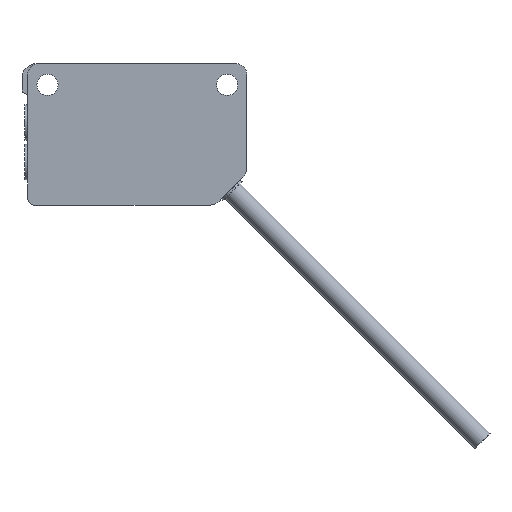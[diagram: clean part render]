
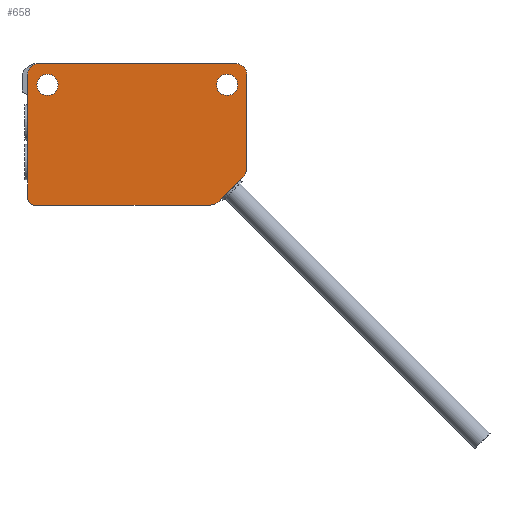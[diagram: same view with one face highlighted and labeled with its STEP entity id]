
A CAD part, left-side view. The second image highlights one B-rep face of the part: STEP entity #658.
In plain terms, the highlighted planar face has unit normal (-1, 0, 0).
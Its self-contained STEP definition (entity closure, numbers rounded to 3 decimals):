
#19 = VERTEX_POINT ( 'NONE', #829 ) ;
#22 = VECTOR ( 'NONE', #872, 1000. ) ;
#26 = VERTEX_POINT ( 'NONE', #1195 ) ;
#39 = DIRECTION ( 'NONE',  ( 0., 0., -1. ) ) ;
#56 = CARTESIAN_POINT ( 'NONE',  ( -5.6, -15.5, -1.5 ) ) ;
#59 = DIRECTION ( 'NONE',  ( 0., 0., -1. ) ) ;
#69 = EDGE_CURVE ( 'NONE', #864, #681, #182, .T. ) ;
#70 = ORIENTED_EDGE ( 'NONE', *, *, #624, .T. ) ;
#119 = EDGE_CURVE ( 'NONE', #1250, #619, #445, .T. ) ;
#139 = AXIS2_PLACEMENT_3D ( 'NONE', #269, #177, #418 ) ;
#157 = CARTESIAN_POINT ( 'NONE',  ( -5.6, -11., -20. ) ) ;
#170 = DIRECTION ( 'NONE',  ( 0., 1., 0. ) ) ;
#177 = DIRECTION ( 'NONE',  ( -1., 0., 0. ) ) ;
#182 = CIRCLE ( 'NONE', #1099, 1.5 ) ;
#195 = EDGE_CURVE ( 'NONE', #1010, #26, #286, .T. ) ;
#197 = EDGE_LOOP ( 'NONE', ( #204, #70 ) ) ;
#204 = ORIENTED_EDGE ( 'NONE', *, *, #1009, .T. ) ;
#208 = AXIS2_PLACEMENT_3D ( 'NONE', #1407, #1277, #285 ) ;
#234 = LINE ( 'NONE', #506, #640 ) ;
#243 = CARTESIAN_POINT ( 'NONE',  ( -5.6, -14., 0. ) ) ;
#256 = CARTESIAN_POINT ( 'NONE',  ( -5.6, 12.7, -1.5 ) ) ;
#269 = CARTESIAN_POINT ( 'NONE',  ( -5.6, -10.172, -18. ) ) ;
#285 = DIRECTION ( 'NONE',  ( 0., 0., -1. ) ) ;
#286 = CIRCLE ( 'NONE', #313, 1. ) ;
#299 = EDGE_CURVE ( 'NONE', #536, #1341, #578, .T. ) ;
#308 = VERTEX_POINT ( 'NONE', #792 ) ;
#313 = AXIS2_PLACEMENT_3D ( 'NONE', #1358, #384, #971 ) ;
#320 = ORIENTED_EDGE ( 'NONE', *, *, #195, .T. ) ;
#335 = DIRECTION ( 'NONE',  ( -1., 0., 0. ) ) ;
#341 = AXIS2_PLACEMENT_3D ( 'NONE', #1177, #427, #59 ) ;
#345 = VECTOR ( 'NONE', #593, 1000. ) ;
#366 = DIRECTION ( 'NONE',  ( -1., 0., 0. ) ) ;
#379 = CARTESIAN_POINT ( 'NONE',  ( -5.6, 15.5, 0. ) ) ;
#381 = AXIS2_PLACEMENT_3D ( 'NONE', #639, #366, #1096 ) ;
#384 = DIRECTION ( 'NONE',  ( -1., 0., 0. ) ) ;
#394 = CARTESIAN_POINT ( 'NONE',  ( -5.6, 15.5, 0. ) ) ;
#395 = FACE_BOUND ( 'NONE', #197, .T. ) ;
#400 = DIRECTION ( 'NONE',  ( 0., -0.707, 0.707 ) ) ;
#411 = CARTESIAN_POINT ( 'NONE',  ( -5.6, 15.5, -19. ) ) ;
#414 = LINE ( 'NONE', #1294, #1205 ) ;
#418 = DIRECTION ( 'NONE',  ( 0., 0., -1. ) ) ;
#427 = DIRECTION ( 'NONE',  ( 1., 0., 0. ) ) ;
#430 = CIRCLE ( 'NONE', #208, 1.5 ) ;
#437 = CIRCLE ( 'NONE', #1058, 1.5 ) ;
#445 = CIRCLE ( 'NONE', #341, 1.5 ) ;
#493 = EDGE_CURVE ( 'NONE', #1010, #681, #731, .T. ) ;
#496 = ORIENTED_EDGE ( 'NONE', *, *, #838, .T. ) ;
#506 = CARTESIAN_POINT ( 'NONE',  ( -5.6, -15.5, 0. ) ) ;
#521 = EDGE_CURVE ( 'NONE', #621, #1317, #1049, .T. ) ;
#535 = CIRCLE ( 'NONE', #580, 1.5 ) ;
#536 = VERTEX_POINT ( 'NONE', #1246 ) ;
#545 = CARTESIAN_POINT ( 'NONE',  ( -5.6, -12.7, -3. ) ) ;
#578 = CIRCLE ( 'NONE', #139, 2. ) ;
#580 = AXIS2_PLACEMENT_3D ( 'NONE', #545, #1287, #1521 ) ;
#593 = DIRECTION ( 'NONE',  ( 0., -1., 0. ) ) ;
#607 = EDGE_CURVE ( 'NONE', #1341, #1350, #652, .T. ) ;
#619 = VERTEX_POINT ( 'NONE', #1151 ) ;
#621 = VERTEX_POINT ( 'NONE', #56 ) ;
#624 = EDGE_CURVE ( 'NONE', #1351, #19, #535, .T. ) ;
#639 = CARTESIAN_POINT ( 'NONE',  ( -5.6, -14., -1.5 ) ) ;
#640 = VECTOR ( 'NONE', #1499, 1000. ) ;
#647 = CARTESIAN_POINT ( 'NONE',  ( -5.6, -12.7, -3. ) ) ;
#652 = LINE ( 'NONE', #157, #1286 ) ;
#658 = ADVANCED_FACE ( 'NONE', ( #1046, #395, #758 ), #904, .F. ) ;
#660 = EDGE_LOOP ( 'NONE', ( #496, #826 ) ) ;
#681 = VERTEX_POINT ( 'NONE', #688 ) ;
#688 = CARTESIAN_POINT ( 'NONE',  ( -5.6, 15.5, -1.5 ) ) ;
#704 = EDGE_CURVE ( 'NONE', #1350, #308, #740, .T. ) ;
#715 = ORIENTED_EDGE ( 'NONE', *, *, #69, .T. ) ;
#731 = LINE ( 'NONE', #379, #22 ) ;
#740 = CIRCLE ( 'NONE', #1495, 2. ) ;
#744 = ORIENTED_EDGE ( 'NONE', *, *, #1368, .F. ) ;
#758 = FACE_OUTER_BOUND ( 'NONE', #1562, .T. ) ;
#792 = CARTESIAN_POINT ( 'NONE',  ( -5.6, -15.5, -14.672 ) ) ;
#799 = CARTESIAN_POINT ( 'NONE',  ( -5.6, 14., 0. ) ) ;
#817 = DIRECTION ( 'NONE',  ( -1., 0., 0. ) ) ;
#826 = ORIENTED_EDGE ( 'NONE', *, *, #119, .T. ) ;
#829 = CARTESIAN_POINT ( 'NONE',  ( -5.6, -12.7, -4.5 ) ) ;
#838 = EDGE_CURVE ( 'NONE', #619, #1250, #430, .T. ) ;
#847 = ORIENTED_EDGE ( 'NONE', *, *, #299, .T. ) ;
#864 = VERTEX_POINT ( 'NONE', #799 ) ;
#872 = DIRECTION ( 'NONE',  ( 0., 0., 1. ) ) ;
#902 = ORIENTED_EDGE ( 'NONE', *, *, #914, .F. ) ;
#903 = CARTESIAN_POINT ( 'NONE',  ( -5.6, -12.7, -1.5 ) ) ;
#904 = PLANE ( 'NONE',  #1517 ) ;
#914 = EDGE_CURVE ( 'NONE', #536, #26, #414, .T. ) ;
#944 = ORIENTED_EDGE ( 'NONE', *, *, #493, .F. ) ;
#945 = DIRECTION ( 'NONE',  ( 0., 0., -1. ) ) ;
#971 = DIRECTION ( 'NONE',  ( 0., 0., -1. ) ) ;
#1009 = EDGE_CURVE ( 'NONE', #19, #1351, #437, .T. ) ;
#1010 = VERTEX_POINT ( 'NONE', #411 ) ;
#1025 = CARTESIAN_POINT ( 'NONE',  ( -5.6, -14.914, -16.086 ) ) ;
#1046 = FACE_BOUND ( 'NONE', #660, .T. ) ;
#1049 = CIRCLE ( 'NONE', #381, 1.5 ) ;
#1058 = AXIS2_PLACEMENT_3D ( 'NONE', #647, #1143, #39 ) ;
#1074 = CARTESIAN_POINT ( 'NONE',  ( -5.6, -13.5, -14.672 ) ) ;
#1092 = ORIENTED_EDGE ( 'NONE', *, *, #607, .T. ) ;
#1096 = DIRECTION ( 'NONE',  ( 0., 0., -1. ) ) ;
#1099 = AXIS2_PLACEMENT_3D ( 'NONE', #1452, #335, #1214 ) ;
#1134 = CARTESIAN_POINT ( 'NONE',  ( -5.6, -11.586, -19.414 ) ) ;
#1143 = DIRECTION ( 'NONE',  ( 1., 0., 0. ) ) ;
#1151 = CARTESIAN_POINT ( 'NONE',  ( -5.6, 12.7, -4.5 ) ) ;
#1161 = DIRECTION ( 'NONE',  ( 1., 0., 0. ) ) ;
#1177 = CARTESIAN_POINT ( 'NONE',  ( -5.6, 12.7, -3. ) ) ;
#1195 = CARTESIAN_POINT ( 'NONE',  ( -5.6, 14.5, -20. ) ) ;
#1205 = VECTOR ( 'NONE', #170, 1000. ) ;
#1214 = DIRECTION ( 'NONE',  ( 0., 0., -1. ) ) ;
#1246 = CARTESIAN_POINT ( 'NONE',  ( -5.6, -10.172, -20. ) ) ;
#1250 = VERTEX_POINT ( 'NONE', #256 ) ;
#1277 = DIRECTION ( 'NONE',  ( 1., 0., 0. ) ) ;
#1286 = VECTOR ( 'NONE', #400, 1000. ) ;
#1287 = DIRECTION ( 'NONE',  ( 1., 0., 0. ) ) ;
#1294 = CARTESIAN_POINT ( 'NONE',  ( -5.6, 15.5, -20. ) ) ;
#1317 = VERTEX_POINT ( 'NONE', #243 ) ;
#1341 = VERTEX_POINT ( 'NONE', #1134 ) ;
#1350 = VERTEX_POINT ( 'NONE', #1025 ) ;
#1351 = VERTEX_POINT ( 'NONE', #903 ) ;
#1358 = CARTESIAN_POINT ( 'NONE',  ( -5.6, 14.5, -19. ) ) ;
#1368 = EDGE_CURVE ( 'NONE', #621, #308, #234, .T. ) ;
#1378 = EDGE_CURVE ( 'NONE', #864, #1317, #1503, .T. ) ;
#1397 = CARTESIAN_POINT ( 'NONE',  ( -5.6, 0., 0. ) ) ;
#1407 = CARTESIAN_POINT ( 'NONE',  ( -5.6, 12.7, -3. ) ) ;
#1452 = CARTESIAN_POINT ( 'NONE',  ( -5.6, 14., -1.5 ) ) ;
#1470 = ORIENTED_EDGE ( 'NONE', *, *, #521, .T. ) ;
#1495 = AXIS2_PLACEMENT_3D ( 'NONE', #1074, #817, #945 ) ;
#1499 = DIRECTION ( 'NONE',  ( 0., 0., -1. ) ) ;
#1503 = LINE ( 'NONE', #394, #345 ) ;
#1517 = AXIS2_PLACEMENT_3D ( 'NONE', #1397, #1161, #1554 ) ;
#1521 = DIRECTION ( 'NONE',  ( 0., 0., -1. ) ) ;
#1544 = ORIENTED_EDGE ( 'NONE', *, *, #704, .T. ) ;
#1554 = DIRECTION ( 'NONE',  ( 0., 0., -1. ) ) ;
#1562 = EDGE_LOOP ( 'NONE', ( #1092, #1544, #744, #1470, #1582, #715, #944, #320, #902, #847 ) ) ;
#1582 = ORIENTED_EDGE ( 'NONE', *, *, #1378, .F. ) ;
